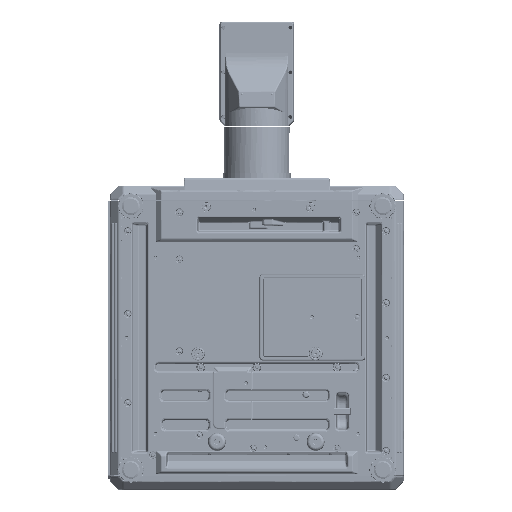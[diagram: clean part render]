
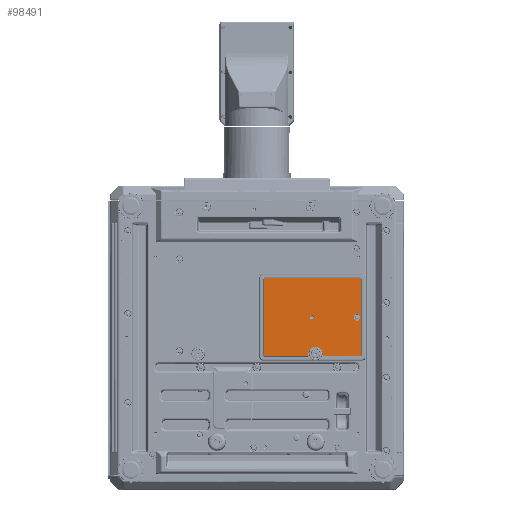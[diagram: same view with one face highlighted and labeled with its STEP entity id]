
A CAD part, front view. The second image highlights one B-rep face of the part: STEP entity #98491.
In plain terms, the highlighted planar face has unit normal (0, -1, 0).
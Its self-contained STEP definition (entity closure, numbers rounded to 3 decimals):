
#16169=ELLIPSE('',#340096,1.504,1.5);
#16170=ELLIPSE('',#340097,1.504,1.5);
#16171=ELLIPSE('',#340099,1.504,1.5);
#16172=ELLIPSE('',#340100,1.504,1.5);
#21174=B_SPLINE_CURVE_WITH_KNOTS('',3,(#502084,#502085,#502086,#502087,
#502088,#502089,#502090,#502091,#502092,#502093,#502094,#502095,#502096,
#502097,#502098,#502099,#502100,#502101,#502102),.UNSPECIFIED.,.F.,.F.,
(4,3,3,3,3,3,4),(0.,0.054,0.243,0.432,
0.621,0.811,1.),.UNSPECIFIED.);
#21175=B_SPLINE_CURVE_WITH_KNOTS('',3,(#502106,#502107,#502108,#502109,
#502110,#502111,#502112,#502113,#502114,#502115,#502116,#502117,#502118,
#502119,#502120,#502121,#502122,#502123,#502124),.UNSPECIFIED.,.F.,.F.,
(4,3,3,3,3,3,4),(0.,0.054,0.243,0.432,
0.621,0.811,1.),.UNSPECIFIED.);
#24622=FACE_BOUND('',#123980,.T.);
#24623=FACE_BOUND('',#123981,.T.);
#24624=FACE_BOUND('',#123982,.T.);
#98491=ADVANCED_FACE('',(#24622,#24623,#24624),#105434,.F.);
#105434=PLANE('',#340101);
#123980=EDGE_LOOP('',(#171488));
#123981=EDGE_LOOP('',(#171489));
#123982=EDGE_LOOP('',(#171490,#171491,#171492,#171493,#171494,#171495,#171496,
#171497,#171498,#171499,#171500,#171501));
#134631=CIRCLE('',#340093,4.);
#134632=CIRCLE('',#340095,6.125);
#134633=CIRCLE('',#340098,13.358);
#171488=ORIENTED_EDGE('',*,*,#257133,.T.);
#171489=ORIENTED_EDGE('',*,*,#257134,.T.);
#171490=ORIENTED_EDGE('',*,*,#257135,.T.);
#171491=ORIENTED_EDGE('',*,*,#257136,.T.);
#171492=ORIENTED_EDGE('',*,*,#257137,.T.);
#171493=ORIENTED_EDGE('',*,*,#257138,.T.);
#171494=ORIENTED_EDGE('',*,*,#257139,.T.);
#171495=ORIENTED_EDGE('',*,*,#257140,.T.);
#171496=ORIENTED_EDGE('',*,*,#257141,.T.);
#171497=ORIENTED_EDGE('',*,*,#257142,.T.);
#171498=ORIENTED_EDGE('',*,*,#257143,.T.);
#171499=ORIENTED_EDGE('',*,*,#257144,.T.);
#171500=ORIENTED_EDGE('',*,*,#257145,.T.);
#171501=ORIENTED_EDGE('',*,*,#257146,.T.);
#215572=VERTEX_POINT('',#502069);
#215573=VERTEX_POINT('',#502072);
#215574=VERTEX_POINT('',#502074);
#215575=VERTEX_POINT('',#502075);
#215576=VERTEX_POINT('',#502077);
#215577=VERTEX_POINT('',#502079);
#215578=VERTEX_POINT('',#502081);
#215579=VERTEX_POINT('',#502083);
#215580=VERTEX_POINT('',#502103);
#215581=VERTEX_POINT('',#502105);
#215582=VERTEX_POINT('',#502125);
#215583=VERTEX_POINT('',#502127);
#215584=VERTEX_POINT('',#502129);
#215585=VERTEX_POINT('',#502131);
#257133=EDGE_CURVE('',#215572,#215572,#134631,.T.);
#257134=EDGE_CURVE('',#215573,#215573,#134632,.T.);
#257135=EDGE_CURVE('',#215574,#215575,#290031,.T.);
#257136=EDGE_CURVE('',#215575,#215576,#16169,.T.);
#257137=EDGE_CURVE('',#215576,#215577,#290032,.T.);
#257138=EDGE_CURVE('',#215577,#215578,#16170,.T.);
#257139=EDGE_CURVE('',#215578,#215579,#290033,.T.);
#257140=EDGE_CURVE('',#215579,#215580,#21174,.T.);
#257141=EDGE_CURVE('',#215580,#215581,#134633,.T.);
#257142=EDGE_CURVE('',#215581,#215582,#21175,.T.);
#257143=EDGE_CURVE('',#215582,#215583,#290034,.T.);
#257144=EDGE_CURVE('',#215583,#215584,#16171,.T.);
#257145=EDGE_CURVE('',#215584,#215585,#290035,.T.);
#257146=EDGE_CURVE('',#215585,#215574,#16172,.T.);
#290031=LINE('',#502073,#315201);
#290032=LINE('',#502078,#315202);
#290033=LINE('',#502082,#315203);
#290034=LINE('',#502126,#315204);
#290035=LINE('',#502130,#315205);
#315201=VECTOR('',#395596,1.);
#315202=VECTOR('',#395599,1.);
#315203=VECTOR('',#395602,1.);
#315204=VECTOR('',#395605,1.);
#315205=VECTOR('',#395608,1.);
#340093=AXIS2_PLACEMENT_3D('',#502068,#395590,#395591);
#340095=AXIS2_PLACEMENT_3D('',#502071,#395594,#395595);
#340096=AXIS2_PLACEMENT_3D('',#502076,#395597,#395598);
#340097=AXIS2_PLACEMENT_3D('',#502080,#395600,#395601);
#340098=AXIS2_PLACEMENT_3D('',#502104,#395603,#395604);
#340099=AXIS2_PLACEMENT_3D('',#502128,#395606,#395607);
#340100=AXIS2_PLACEMENT_3D('',#502132,#395609,#395610);
#340101=AXIS2_PLACEMENT_3D('',#502133,#395611,#395612);
#395590=DIRECTION('',(0.,1.,0.));
#395591=DIRECTION('',(0.,0.,1.));
#395594=DIRECTION('',(0.,1.,0.));
#395595=DIRECTION('',(0.,0.,1.));
#395596=DIRECTION('',(-1.,0.,0.));
#395597=DIRECTION('',(0.,-1.,0.));
#395598=DIRECTION('',(0.707,0.,-0.707));
#395599=DIRECTION('',(0.,0.,-1.));
#395600=DIRECTION('',(0.,-1.,0.));
#395601=DIRECTION('',(-0.707,0.,-0.707));
#395602=DIRECTION('',(1.,0.,0.));
#395603=DIRECTION('',(0.,1.,0.));
#395604=DIRECTION('',(0.,0.,1.));
#395605=DIRECTION('',(1.,0.,0.));
#395606=DIRECTION('',(0.,-1.,0.));
#395607=DIRECTION('',(-0.707,0.,0.707));
#395608=DIRECTION('',(0.,0.,1.));
#395609=DIRECTION('',(0.,-1.,0.));
#395610=DIRECTION('',(-0.707,0.,-0.707));
#395611=DIRECTION('',(0.,1.,0.));
#395612=DIRECTION('',(0.,0.,1.));
#502068=CARTESIAN_POINT('',(103.8,-116.5,-1.5));
#502069=CARTESIAN_POINT('',(103.8,-116.5,2.5));
#502071=CARTESIAN_POINT('',(187.8,-116.5,-1.5));
#502072=CARTESIAN_POINT('',(187.8,-116.5,4.625));
#502073=CARTESIAN_POINT('',(110.,-116.5,71.642));
#502074=CARTESIAN_POINT('',(193.644,-116.5,71.642));
#502075=CARTESIAN_POINT('',(14.356,-116.5,71.642));
#502076=CARTESIAN_POINT('',(14.36,-116.5,70.14));
#502077=CARTESIAN_POINT('',(12.858,-116.5,70.144));
#502078=CARTESIAN_POINT('',(12.858,-116.5,-70.));
#502079=CARTESIAN_POINT('',(12.858,-116.5,-73.144));
#502080=CARTESIAN_POINT('',(14.36,-116.5,-73.14));
#502081=CARTESIAN_POINT('',(14.356,-116.5,-74.642));
#502082=CARTESIAN_POINT('',(110.,-116.5,-74.642));
#502083=CARTESIAN_POINT('',(95.481,-116.5,-74.642));
#502084=CARTESIAN_POINT('',(95.481,-116.5,-74.642));
#502085=CARTESIAN_POINT('',(95.529,-116.5,-74.642));
#502086=CARTESIAN_POINT('',(95.578,-116.5,-74.64));
#502087=CARTESIAN_POINT('',(95.627,-116.5,-74.635));
#502088=CARTESIAN_POINT('',(95.794,-116.5,-74.619));
#502089=CARTESIAN_POINT('',(95.96,-116.5,-74.574));
#502090=CARTESIAN_POINT('',(96.112,-116.5,-74.503));
#502091=CARTESIAN_POINT('',(96.264,-116.5,-74.433));
#502092=CARTESIAN_POINT('',(96.405,-116.5,-74.335));
#502093=CARTESIAN_POINT('',(96.525,-116.5,-74.219));
#502094=CARTESIAN_POINT('',(96.645,-116.5,-74.102));
#502095=CARTESIAN_POINT('',(96.747,-116.5,-73.963));
#502096=CARTESIAN_POINT('',(96.822,-116.5,-73.813));
#502097=CARTESIAN_POINT('',(96.897,-116.5,-73.662));
#502098=CARTESIAN_POINT('',(96.947,-116.5,-73.497));
#502099=CARTESIAN_POINT('',(96.967,-116.5,-73.33));
#502100=CARTESIAN_POINT('',(96.988,-116.5,-73.164));
#502101=CARTESIAN_POINT('',(96.98,-116.5,-72.991));
#502102=CARTESIAN_POINT('',(96.945,-116.5,-72.827));
#502103=CARTESIAN_POINT('',(96.945,-116.5,-72.827));
#502104=CARTESIAN_POINT('',(110.,-116.5,-70.));
#502105=CARTESIAN_POINT('',(123.055,-116.5,-72.827));
#502106=CARTESIAN_POINT('',(123.055,-116.5,-72.827));
#502107=CARTESIAN_POINT('',(123.045,-116.5,-72.875));
#502108=CARTESIAN_POINT('',(123.037,-116.5,-72.923));
#502109=CARTESIAN_POINT('',(123.031,-116.5,-72.972));
#502110=CARTESIAN_POINT('',(123.012,-116.5,-73.138));
#502111=CARTESIAN_POINT('',(123.021,-116.5,-73.31));
#502112=CARTESIAN_POINT('',(123.058,-116.5,-73.473));
#502113=CARTESIAN_POINT('',(123.094,-116.5,-73.637));
#502114=CARTESIAN_POINT('',(123.159,-116.5,-73.796));
#502115=CARTESIAN_POINT('',(123.248,-116.5,-73.938));
#502116=CARTESIAN_POINT('',(123.337,-116.5,-74.08));
#502117=CARTESIAN_POINT('',(123.451,-116.5,-74.209));
#502118=CARTESIAN_POINT('',(123.582,-116.5,-74.313));
#502119=CARTESIAN_POINT('',(123.713,-116.5,-74.418));
#502120=CARTESIAN_POINT('',(123.864,-116.5,-74.502));
#502121=CARTESIAN_POINT('',(124.023,-116.5,-74.558));
#502122=CARTESIAN_POINT('',(124.181,-116.5,-74.613));
#502123=CARTESIAN_POINT('',(124.351,-116.5,-74.642));
#502124=CARTESIAN_POINT('',(124.519,-116.5,-74.642));
#502125=CARTESIAN_POINT('',(124.519,-116.5,-74.642));
#502126=CARTESIAN_POINT('',(110.,-116.5,-74.642));
#502127=CARTESIAN_POINT('',(193.644,-116.5,-74.642));
#502128=CARTESIAN_POINT('',(193.64,-116.5,-73.14));
#502129=CARTESIAN_POINT('',(195.142,-116.5,-73.144));
#502130=CARTESIAN_POINT('',(195.142,-116.5,-70.));
#502131=CARTESIAN_POINT('',(195.142,-116.5,70.144));
#502132=CARTESIAN_POINT('',(193.64,-116.5,70.14));
#502133=CARTESIAN_POINT('',(110.,-116.5,-70.));
